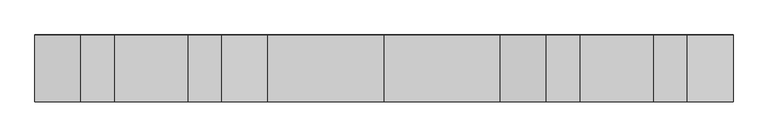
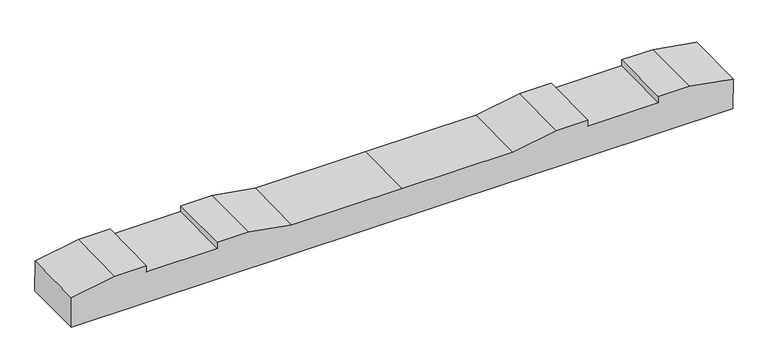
"""IFC4 building model written with IfcOpenShell, lengths in millimetres: proxy geometry, 轨枕-立面角度 : 轨枕-立面角度."""

from ifc_helpers import new_model, si_unit, frame, origin, place, context, project, spatial, polyline, outline, extrude, source, transform, mapped, element, save


def generic_models_4fb6ce47(model_context):
    return source(origin(), model_context, "Body", "SweptSolid", [
        extrude(outline(polyline([(0.0, 0.0), (2099.7669328, 0.0), (2099.7669328, -100.020689), (1961.8834664, -124.5000001), (1861.8834664, -124.5000001), (1861.8834664, -104.5000001), (1637.8834664, -104.5000001), (1637.8834664, -124.5000001), (1537.8834664, -124.5000001), (1399.8834664, -100.0000001), (1049.8834664, -100.0000001), (699.8834664, -100.0000001), (561.8834664, -124.5000001), (461.8834664, -124.5000001), (461.8834664, -104.5000001), (237.8834664, -104.5000001), (237.8834664, -124.5000001), (137.8834664, -124.5000001), (0.0, -100.020689), (0.0, 0.0)])), frame((-1049.8834664, -98.8939852, -105.5472866), z_axis=(0.0, 0.9999445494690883, 0.010530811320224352), x_axis=(1.0, 0.0, 0.0)), (0.0, 0.0, 1.0), 200.0),
    ])


if __name__ == "__main__":
    model = new_model("IFC4")
    model_context = context("Model", 3, world=origin())
    ifc_project = project(units=[si_unit("LENGTHUNIT", "METRE", prefix="MILLI")], contexts=[model_context])
    site = spatial("IfcSite", under=ifc_project)
    building = spatial("IfcBuilding", under=site)
    placement = place(None, origin())
    generic_models_shape = generic_models_4fb6ce47(model_context)
    element("IfcBuildingElementProxy", 1, Name="轨枕-立面角度 : 轨枕-立面角度", ObjectType="轨枕-立面角度 : 轨枕-立面角度", at=placement, inside=building, context=model_context, shape_type="MappedRepresentation", body=[
        mapped(generic_models_shape, transform((0.0, 0.0, 0.0), x_axis=(1.0, 0.0, 0.0), y_axis=(0.0, 1.0, 0.0), z_axis=(0.0, 0.0, 1.0))),
    ])
    save(model, "model.ifc")
